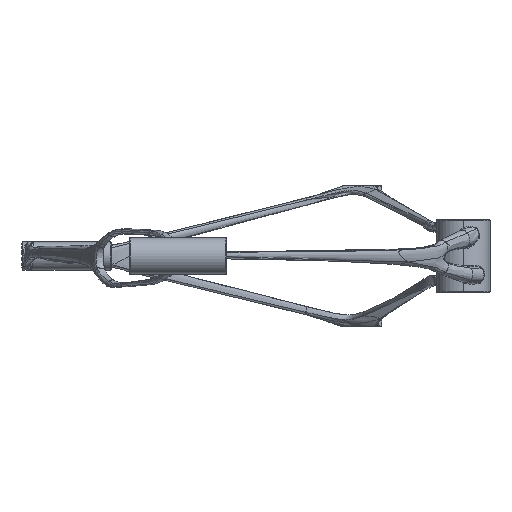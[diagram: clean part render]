
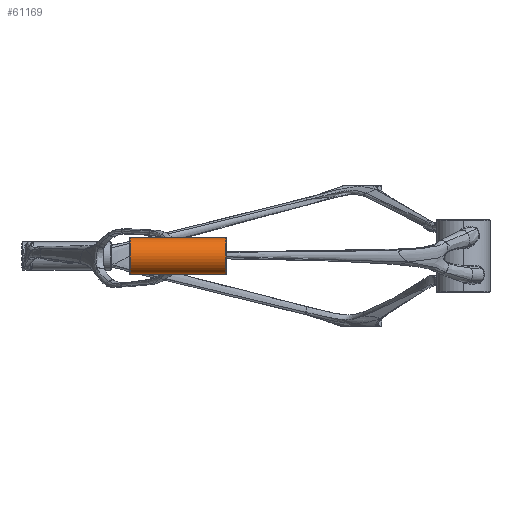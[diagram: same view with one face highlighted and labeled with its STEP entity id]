
A CAD part, left-side view. The second image highlights one B-rep face of the part: STEP entity #61169.
In plain terms, the highlighted cylindrical face has radius 30.182 mm (diameter 60.365 mm), a partial arc.
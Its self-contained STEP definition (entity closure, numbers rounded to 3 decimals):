
#5843 = VECTOR ( 'NONE', #35817, 1000. ) ;
#15528 = ORIENTED_EDGE ( 'NONE', *, *, #58244, .T. ) ;
#23846 = EDGE_CURVE ( 'NONE', #181245, #62374, #52957, .T. ) ;
#34734 = CARTESIAN_POINT ( 'NONE',  ( 0., 1.5, -30.182 ) ) ;
#35817 = DIRECTION ( 'NONE',  ( 0., 1., 0. ) ) ;
#38004 = EDGE_LOOP ( 'NONE', ( #164156, #124190, #15528, #67243 ) ) ;
#40324 = CARTESIAN_POINT ( 'NONE',  ( 0., 159., 0. ) ) ;
#51874 = CARTESIAN_POINT ( 'NONE',  ( 0., -84.869, -30.182 ) ) ;
#52957 = CIRCLE ( 'NONE', #133626, 30.182 ) ;
#58244 = EDGE_CURVE ( 'NONE', #62374, #73327, #182420, .T. ) ;
#61169 = ADVANCED_FACE ( 'NONE', ( #96112 ), #102695, .T. ) ;
#62374 = VERTEX_POINT ( 'NONE', #160756 ) ;
#67243 = ORIENTED_EDGE ( 'NONE', *, *, #93245, .T. ) ;
#70087 = LINE ( 'NONE', #51874, #5843 ) ;
#72162 = DIRECTION ( 'NONE',  ( 0., 0., 1. ) ) ;
#72652 = AXIS2_PLACEMENT_3D ( 'NONE', #40324, #139370, #83024 ) ;
#73327 = VERTEX_POINT ( 'NONE', #146868 ) ;
#83024 = DIRECTION ( 'NONE',  ( 0., 0., 1. ) ) ;
#91886 = DIRECTION ( 'NONE',  ( 0., 1., 0. ) ) ;
#93245 = EDGE_CURVE ( 'NONE', #73327, #148315, #151401, .T. ) ;
#96112 = FACE_OUTER_BOUND ( 'NONE', #38004, .T. ) ;
#100039 = DIRECTION ( 'NONE',  ( 0., 1., 0. ) ) ;
#102695 = CYLINDRICAL_SURFACE ( 'NONE', #110372, 30.182 ) ;
#105513 = DIRECTION ( 'NONE',  ( 0., 0., 1. ) ) ;
#110372 = AXIS2_PLACEMENT_3D ( 'NONE', #133990, #91886, #105513 ) ;
#111670 = DIRECTION ( 'NONE',  ( 0., 1., 0. ) ) ;
#112274 = CARTESIAN_POINT ( 'NONE',  ( 0., -84.869, 30.182 ) ) ;
#124190 = ORIENTED_EDGE ( 'NONE', *, *, #23846, .T. ) ;
#133626 = AXIS2_PLACEMENT_3D ( 'NONE', #141535, #100039, #72162 ) ;
#133990 = CARTESIAN_POINT ( 'NONE',  ( 0., -84.869, 0. ) ) ;
#139370 = DIRECTION ( 'NONE',  ( 0., -1., 0. ) ) ;
#141535 = CARTESIAN_POINT ( 'NONE',  ( 0., 1.5, 0. ) ) ;
#146868 = CARTESIAN_POINT ( 'NONE',  ( 0., 159., 30.182 ) ) ;
#148315 = VERTEX_POINT ( 'NONE', #171727 ) ;
#151401 = CIRCLE ( 'NONE', #72652, 30.182 ) ;
#153692 = VECTOR ( 'NONE', #111670, 1000. ) ;
#154275 = EDGE_CURVE ( 'NONE', #181245, #148315, #70087, .T. ) ;
#160756 = CARTESIAN_POINT ( 'NONE',  ( 0., 1.5, 30.182 ) ) ;
#164156 = ORIENTED_EDGE ( 'NONE', *, *, #154275, .F. ) ;
#171727 = CARTESIAN_POINT ( 'NONE',  ( 0., 159., -30.182 ) ) ;
#181245 = VERTEX_POINT ( 'NONE', #34734 ) ;
#182420 = LINE ( 'NONE', #112274, #153692 ) ;
